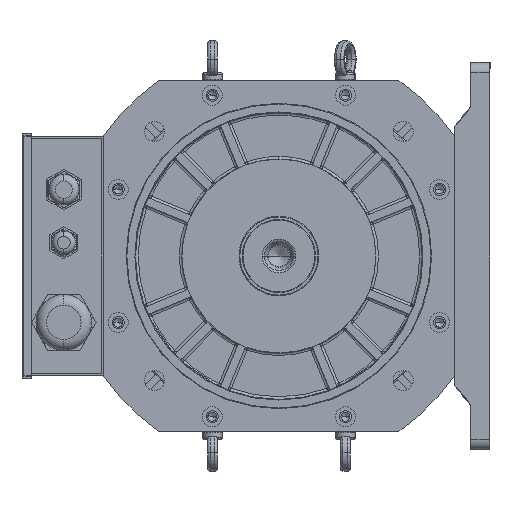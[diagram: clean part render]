
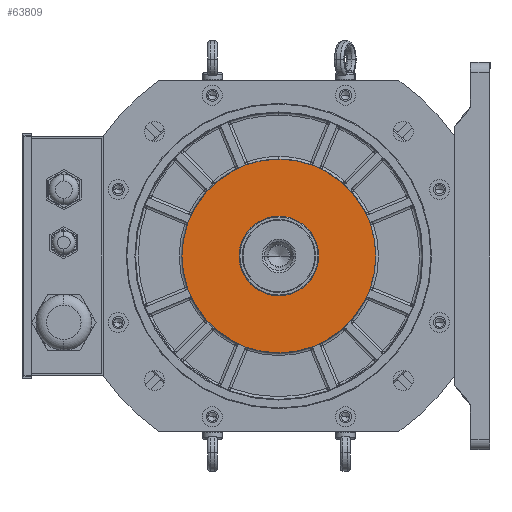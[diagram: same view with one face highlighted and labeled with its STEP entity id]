
A CAD part, left-side view. The second image highlights one B-rep face of the part: STEP entity #63809.
In plain terms, the highlighted planar face has unit normal (-1, 0, 0).
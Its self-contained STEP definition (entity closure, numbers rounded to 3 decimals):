
#1327 = DIRECTION ( 'NONE',  ( -1., 0., 0. ) ) ;
#6551 = CARTESIAN_POINT ( 'NONE',  ( 6., 0., 73. ) ) ;
#8067 = CARTESIAN_POINT ( 'NONE',  ( 6., 0., -30. ) ) ;
#8209 = PLANE ( 'NONE',  #61062 ) ;
#12665 = AXIS2_PLACEMENT_3D ( 'NONE', #70353, #34580, #28833 ) ;
#15764 = DIRECTION ( 'NONE',  ( -1., 0., 0. ) ) ;
#17727 = CIRCLE ( 'NONE', #38071, 30. ) ;
#21315 = CARTESIAN_POINT ( 'NONE',  ( 6., 0., 30. ) ) ;
#23002 = EDGE_LOOP ( 'NONE', ( #73334, #73418 ) ) ;
#23005 = FACE_BOUND ( 'NONE', #43749, .T. ) ;
#24700 = CARTESIAN_POINT ( 'NONE',  ( 6., 0., 0. ) ) ;
#26735 = EDGE_CURVE ( 'NONE', #38248, #59017, #52284, .T. ) ;
#28222 = CARTESIAN_POINT ( 'NONE',  ( 6., 0., 0. ) ) ;
#28833 = DIRECTION ( 'NONE',  ( 0., 0., 1. ) ) ;
#29399 = CARTESIAN_POINT ( 'NONE',  ( 6., 0., 0. ) ) ;
#29894 = DIRECTION ( 'NONE',  ( -1., 0., 0. ) ) ;
#31988 = CARTESIAN_POINT ( 'NONE',  ( 6., 0., -73. ) ) ;
#33696 = EDGE_CURVE ( 'NONE', #72728, #76834, #17727, .T. ) ;
#34580 = DIRECTION ( 'NONE',  ( -1., 0., 0. ) ) ;
#36683 = AXIS2_PLACEMENT_3D ( 'NONE', #24700, #1327, #60958 ) ;
#38071 = AXIS2_PLACEMENT_3D ( 'NONE', #29399, #29894, #47409 ) ;
#38248 = VERTEX_POINT ( 'NONE', #31988 ) ;
#38874 = FACE_OUTER_BOUND ( 'NONE', #23002, .T. ) ;
#43749 = EDGE_LOOP ( 'NONE', ( #59153, #58478 ) ) ;
#47409 = DIRECTION ( 'NONE',  ( 0., 0., 1. ) ) ;
#47438 = CIRCLE ( 'NONE', #12665, 30. ) ;
#50399 = DIRECTION ( 'NONE',  ( -1., 0., 0. ) ) ;
#51597 = EDGE_CURVE ( 'NONE', #76834, #72728, #47438, .T. ) ;
#51999 = DIRECTION ( 'NONE',  ( 0., 0., 1. ) ) ;
#52284 = CIRCLE ( 'NONE', #36683, 73. ) ;
#58478 = ORIENTED_EDGE ( 'NONE', *, *, #51597, .F. ) ;
#59017 = VERTEX_POINT ( 'NONE', #6551 ) ;
#59153 = ORIENTED_EDGE ( 'NONE', *, *, #33696, .F. ) ;
#60958 = DIRECTION ( 'NONE',  ( 0., 0., 1. ) ) ;
#61062 = AXIS2_PLACEMENT_3D ( 'NONE', #74362, #50399, #74119 ) ;
#62922 = CIRCLE ( 'NONE', #63048, 73. ) ;
#63048 = AXIS2_PLACEMENT_3D ( 'NONE', #28222, #15764, #51999 ) ;
#63809 = ADVANCED_FACE ( 'NONE', ( #38874, #23005 ), #8209, .T. ) ;
#70353 = CARTESIAN_POINT ( 'NONE',  ( 6., 0., 0. ) ) ;
#71724 = EDGE_CURVE ( 'NONE', #59017, #38248, #62922, .T. ) ;
#72728 = VERTEX_POINT ( 'NONE', #21315 ) ;
#73334 = ORIENTED_EDGE ( 'NONE', *, *, #71724, .T. ) ;
#73418 = ORIENTED_EDGE ( 'NONE', *, *, #26735, .T. ) ;
#74119 = DIRECTION ( 'NONE',  ( 0., 0., 1. ) ) ;
#74362 = CARTESIAN_POINT ( 'NONE',  ( 6., -73., 0. ) ) ;
#76834 = VERTEX_POINT ( 'NONE', #8067 ) ;
